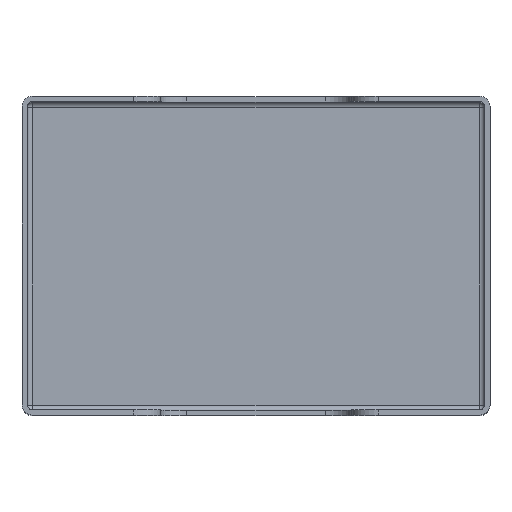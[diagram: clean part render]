
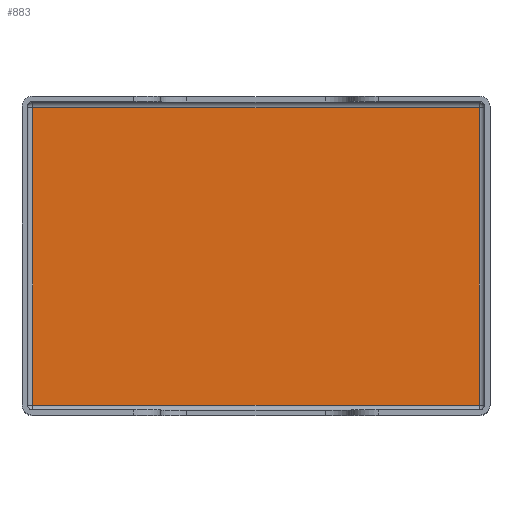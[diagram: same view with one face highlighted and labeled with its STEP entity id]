
A CAD part, top view. The second image highlights one B-rep face of the part: STEP entity #883.
In plain terms, the highlighted planar face has unit normal (0, 0, 1).
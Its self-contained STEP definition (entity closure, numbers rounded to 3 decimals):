
#20 = EDGE_CURVE ( 'NONE', #217, #764, #1513, .T. ) ;
#37 = CARTESIAN_POINT ( 'NONE',  ( 42., -28., 1. ) ) ;
#68 = EDGE_CURVE ( 'NONE', #500, #217, #1036, .T. ) ;
#199 = CARTESIAN_POINT ( 'NONE',  ( 42., 28., 1. ) ) ;
#217 = VERTEX_POINT ( 'NONE', #37 ) ;
#231 = CARTESIAN_POINT ( 'NONE',  ( -43., 28., 1. ) ) ;
#348 = VECTOR ( 'NONE', #1336, 1000. ) ;
#425 = ORIENTED_EDGE ( 'NONE', *, *, #1357, .T. ) ;
#500 = VERTEX_POINT ( 'NONE', #1165 ) ;
#551 = LINE ( 'NONE', #231, #1775 ) ;
#764 = VERTEX_POINT ( 'NONE', #199 ) ;
#883 = ADVANCED_FACE ( 'NONE', ( #886 ), #1494, .T. ) ;
#885 = ORIENTED_EDGE ( 'NONE', *, *, #68, .T. ) ;
#886 = FACE_OUTER_BOUND ( 'NONE', #1151, .T. ) ;
#986 = DIRECTION ( 'NONE',  ( 0., -1., 0. ) ) ;
#1036 = LINE ( 'NONE', #1808, #348 ) ;
#1060 = CARTESIAN_POINT ( 'NONE',  ( -42., 28., 1. ) ) ;
#1106 = ORIENTED_EDGE ( 'NONE', *, *, #20, .T. ) ;
#1118 = LINE ( 'NONE', #1744, #1409 ) ;
#1151 = EDGE_LOOP ( 'NONE', ( #425, #1260, #885, #1106 ) ) ;
#1165 = CARTESIAN_POINT ( 'NONE',  ( -42., -28., 1. ) ) ;
#1173 = VECTOR ( 'NONE', #1476, 1000. ) ;
#1184 = EDGE_CURVE ( 'NONE', #1512, #500, #1118, .T. ) ;
#1260 = ORIENTED_EDGE ( 'NONE', *, *, #1184, .T. ) ;
#1321 = DIRECTION ( 'NONE',  ( -1., 0., 0. ) ) ;
#1332 = DIRECTION ( 'NONE',  ( 0., 0., 1. ) ) ;
#1336 = DIRECTION ( 'NONE',  ( 1., 0., 0. ) ) ;
#1357 = EDGE_CURVE ( 'NONE', #764, #1512, #551, .T. ) ;
#1375 = AXIS2_PLACEMENT_3D ( 'NONE', #1984, #1332, #1814 ) ;
#1409 = VECTOR ( 'NONE', #986, 1000. ) ;
#1476 = DIRECTION ( 'NONE',  ( 0., 1., 0. ) ) ;
#1494 = PLANE ( 'NONE',  #1375 ) ;
#1512 = VERTEX_POINT ( 'NONE', #1060 ) ;
#1513 = LINE ( 'NONE', #1795, #1173 ) ;
#1744 = CARTESIAN_POINT ( 'NONE',  ( -42., -29., 1. ) ) ;
#1775 = VECTOR ( 'NONE', #1321, 1000. ) ;
#1795 = CARTESIAN_POINT ( 'NONE',  ( 42., 29., 1. ) ) ;
#1808 = CARTESIAN_POINT ( 'NONE',  ( 43., -28., 1. ) ) ;
#1814 = DIRECTION ( 'NONE',  ( 1., 0., 0. ) ) ;
#1984 = CARTESIAN_POINT ( 'NONE',  ( 0., 0., 1. ) ) ;
